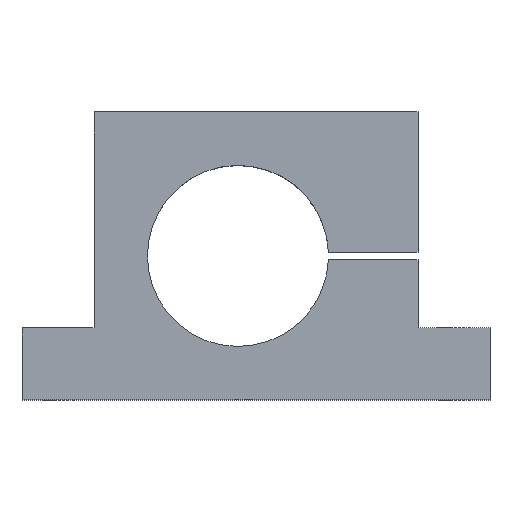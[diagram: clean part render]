
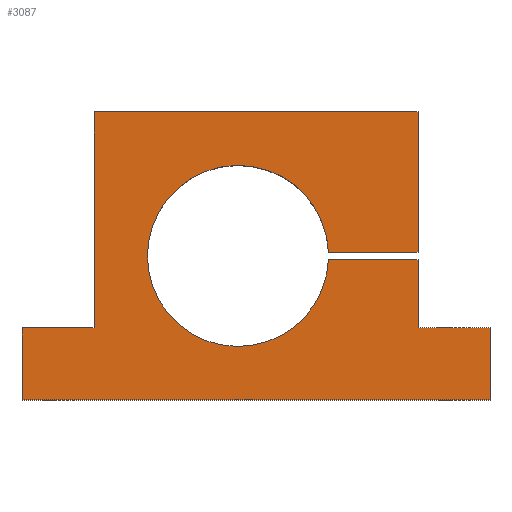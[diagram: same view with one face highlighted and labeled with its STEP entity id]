
A CAD part, top view. The second image highlights one B-rep face of the part: STEP entity #3087.
In plain terms, the highlighted planar face has unit normal (0, 0, 1).
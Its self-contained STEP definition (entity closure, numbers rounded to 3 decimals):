
#40=CIRCLE('',#3207,25.15);
#149=PLANE('',#3219);
#314=FACE_OUTER_BOUND('',#502,.T.);
#502=EDGE_LOOP('',(#2839,#2840,#2841,#2842,#2843,#2844,#2845,#2846,#2847,
#2848,#2849,#2850));
#747=LINE('',#5455,#1030);
#768=LINE('',#5541,#1051);
#770=LINE('',#5545,#1053);
#772=LINE('',#5549,#1055);
#774=LINE('',#5553,#1057);
#776=LINE('',#5557,#1059);
#778=LINE('',#5561,#1061);
#780=LINE('',#5565,#1063);
#782=LINE('',#5568,#1065);
#783=LINE('',#5572,#1066);
#785=LINE('',#5575,#1068);
#1030=VECTOR('',#3602,10.);
#1051=VECTOR('',#3689,10.);
#1053=VECTOR('',#3693,10.);
#1055=VECTOR('',#3697,10.);
#1057=VECTOR('',#3701,10.);
#1059=VECTOR('',#3705,10.);
#1061=VECTOR('',#3709,10.);
#1063=VECTOR('',#3713,10.);
#1065=VECTOR('',#3717,10.);
#1066=VECTOR('',#3722,10.);
#1068=VECTOR('',#3726,10.);
#1472=VERTEX_POINT('',#5452);
#1473=VERTEX_POINT('',#5454);
#1503=VERTEX_POINT('',#5534);
#1504=VERTEX_POINT('',#5536);
#1505=VERTEX_POINT('',#5540);
#1506=VERTEX_POINT('',#5544);
#1507=VERTEX_POINT('',#5548);
#1508=VERTEX_POINT('',#5552);
#1509=VERTEX_POINT('',#5556);
#1510=VERTEX_POINT('',#5560);
#1511=VERTEX_POINT('',#5564);
#1512=VERTEX_POINT('',#5571);
#1901=EDGE_CURVE('',#1473,#1472,#747,.T.);
#1939=EDGE_CURVE('',#1504,#1503,#40,.T.);
#1941=EDGE_CURVE('',#1505,#1504,#768,.T.);
#1943=EDGE_CURVE('',#1506,#1505,#770,.T.);
#1945=EDGE_CURVE('',#1507,#1506,#772,.T.);
#1947=EDGE_CURVE('',#1508,#1507,#774,.T.);
#1949=EDGE_CURVE('',#1509,#1508,#776,.T.);
#1951=EDGE_CURVE('',#1510,#1509,#778,.T.);
#1953=EDGE_CURVE('',#1511,#1510,#780,.T.);
#1955=EDGE_CURVE('',#1472,#1511,#782,.T.);
#1956=EDGE_CURVE('',#1512,#1473,#783,.T.);
#1958=EDGE_CURVE('',#1503,#1512,#785,.T.);
#2839=ORIENTED_EDGE('',*,*,#1958,.T.);
#2840=ORIENTED_EDGE('',*,*,#1956,.T.);
#2841=ORIENTED_EDGE('',*,*,#1901,.T.);
#2842=ORIENTED_EDGE('',*,*,#1955,.T.);
#2843=ORIENTED_EDGE('',*,*,#1953,.T.);
#2844=ORIENTED_EDGE('',*,*,#1951,.T.);
#2845=ORIENTED_EDGE('',*,*,#1949,.T.);
#2846=ORIENTED_EDGE('',*,*,#1947,.T.);
#2847=ORIENTED_EDGE('',*,*,#1945,.T.);
#2848=ORIENTED_EDGE('',*,*,#1943,.T.);
#2849=ORIENTED_EDGE('',*,*,#1941,.T.);
#2850=ORIENTED_EDGE('',*,*,#1939,.T.);
#3087=ADVANCED_FACE('',(#314),#149,.T.);
#3207=AXIS2_PLACEMENT_3D('',#5537,#3684,#3685);
#3219=AXIS2_PLACEMENT_3D('',#5576,#3727,#3728);
#3602=DIRECTION('',(-1.,0.,0.));
#3684=DIRECTION('center_axis',(0.,0.,-1.));
#3685=DIRECTION('ref_axis',(-0.999,-0.04,0.));
#3689=DIRECTION('',(-1.,0.,0.));
#3693=DIRECTION('',(0.,1.,0.));
#3697=DIRECTION('',(-1.,0.,0.));
#3701=DIRECTION('',(0.,1.,0.));
#3705=DIRECTION('',(1.,0.,0.));
#3709=DIRECTION('',(0.,-1.,0.));
#3713=DIRECTION('',(-1.,0.,0.));
#3717=DIRECTION('',(0.,-1.,0.));
#3722=DIRECTION('',(0.,1.,0.));
#3726=DIRECTION('',(1.,0.,0.));
#3727=DIRECTION('center_axis',(0.,0.,1.));
#3728=DIRECTION('ref_axis',(1.,0.,0.));
#5452=CARTESIAN_POINT('',(20.,80.,15.));
#5454=CARTESIAN_POINT('',(110.,80.,15.));
#5455=CARTESIAN_POINT('',(110.,80.,15.));
#5534=CARTESIAN_POINT('',(85.13,41.,15.));
#5536=CARTESIAN_POINT('',(85.13,39.,15.));
#5537=CARTESIAN_POINT('Origin',(60.,40.,15.));
#5540=CARTESIAN_POINT('',(110.,39.,15.));
#5541=CARTESIAN_POINT('',(110.,39.,15.));
#5544=CARTESIAN_POINT('',(110.,20.,15.));
#5545=CARTESIAN_POINT('',(110.,20.,15.));
#5548=CARTESIAN_POINT('',(130.,20.,15.));
#5549=CARTESIAN_POINT('',(130.,20.,15.));
#5552=CARTESIAN_POINT('',(130.,0.,15.));
#5553=CARTESIAN_POINT('',(130.,0.,15.));
#5556=CARTESIAN_POINT('',(0.,0.,15.));
#5557=CARTESIAN_POINT('',(0.,0.,15.));
#5560=CARTESIAN_POINT('',(0.,20.,15.));
#5561=CARTESIAN_POINT('',(0.,20.,15.));
#5564=CARTESIAN_POINT('',(20.,20.,15.));
#5565=CARTESIAN_POINT('',(20.,20.,15.));
#5568=CARTESIAN_POINT('',(20.,80.,15.));
#5571=CARTESIAN_POINT('',(110.,41.,15.));
#5572=CARTESIAN_POINT('',(110.,41.,15.));
#5575=CARTESIAN_POINT('',(85.13,41.,15.));
#5576=CARTESIAN_POINT('Origin',(66.551,35.896,15.));
